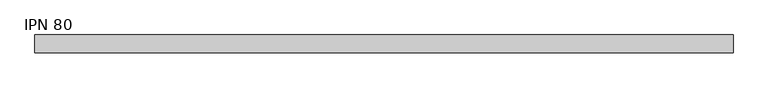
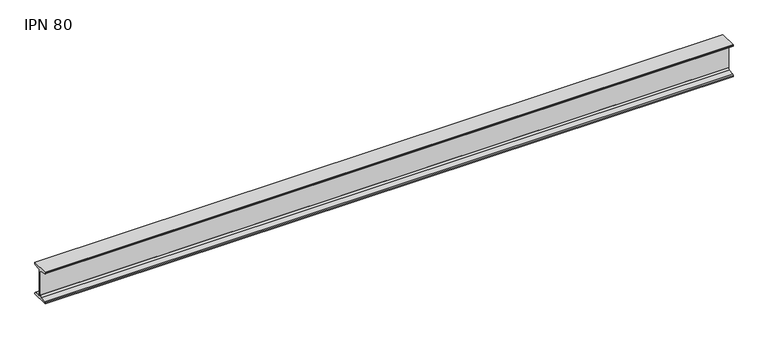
"""IFC4 building model written with IfcOpenShell, lengths in millimetres: beam geometry, IPN - Secciones en I con alas cónicas : IPN 80."""

import ifcopenshell
import ifcopenshell.guid

model = None  # the IFC model being written
_history = None  # IfcOwnerHistory: only IFC2X3 demands one
_inside = {}  # id of a spatial element -> (the spatial element, [elements in it])
_under = {}  # id of a project, library or spatial element -> (it, [spatial elements below it])
_declared = {}  # id of a project -> (the project, [libraries it declares])
_typed = {}  # id of a type object -> (the type object, [elements of that type])
_made_of = {}  # id of a material, layer set ... -> (it, [elements and type objects made of it])


def new_model(schema):
    """Start an empty IFC model of exactly this schema.

    Asked for "IFC4X3", IfcOpenShell would pick the latest addendum, in which some entities
    have other attributes; the version numbers below select the first issue.
    IFC2X3 requires an IfcOwnerHistory on every rooted entity: one is made here for all.
    """
    global model, _history
    if schema == "IFC4X3":
        model = ifcopenshell.file(schema_version=(4, 3, 0, 0))
    else:
        model = ifcopenshell.file(schema=schema)
    _inside.clear()
    _under.clear()
    _declared.clear()
    _typed.clear()
    _made_of.clear()
    _history = None
    if model.schema == "IFC2X3":
        org = make("IfcOrganization", Name="unknown")
        user = make(
            "IfcPersonAndOrganization",
            ThePerson=make("IfcPerson", FamilyName="unknown"),
            TheOrganization=org,
        )
        app = make(
            "IfcApplication",
            ApplicationDeveloper=org,
            Version="unknown",
            ApplicationFullName="unknown",
            ApplicationIdentifier="unknown",
        )
        _history = make(
            "IfcOwnerHistory",
            OwningUser=user,
            OwningApplication=app,
            ChangeAction="ADDED",
            CreationDate=0,
        )
    return model


def make(cls, **values):
    """One entity of the class cls with the attributes given. An attribute that is None is left unset."""
    return model.create_entity(
        cls, **{name: value for name, value in values.items() if value is not None}
    )


def rooted(cls, **values):
    """An entity with a GlobalId (a new one), such as an element, a storey or a relation."""
    return make(cls, GlobalId=ifcopenshell.guid.new(), OwnerHistory=_history, **values)


def si_unit(unit_type, name, prefix=None):
    """IfcSIUnit, for example si_unit("LENGTHUNIT", "METRE", prefix="MILLI")."""
    return make("IfcSIUnit", UnitType=unit_type, Prefix=prefix, Name=name)


def assignment(units):
    """IfcUnitAssignment: the units of a project."""
    return None if units is None else make("IfcUnitAssignment", Units=units)


def point(xyz):
    """IfcCartesianPoint."""
    return None if xyz is None else make("IfcCartesianPoint", Coordinates=xyz)


def direction(xyz):
    """IfcDirection."""
    return None if xyz is None else make("IfcDirection", DirectionRatios=xyz)


def frame(location, z_axis=None, x_axis=None):
    """IfcAxis2Placement3D, a coordinate frame: its origin and axes. An axis left out is left unset."""
    return make(
        "IfcAxis2Placement3D",
        Location=point(location),
        Axis=direction(z_axis),
        RefDirection=direction(x_axis),
    )


def frame_2d(location, x_axis=None):
    """IfcAxis2Placement2D, a coordinate frame in the plane: its origin and x axis."""
    return make(
        "IfcAxis2Placement2D", Location=point(location), RefDirection=direction(x_axis)
    )


def origin():
    """The frame at (0, 0, 0) with its axes left unset."""
    return frame((0.0, 0.0, 0.0))


def place(relative_to, where):
    """IfcLocalPlacement: puts the frame where relative to a parent placement (None: the world)."""
    return make(
        "IfcLocalPlacement", PlacementRelTo=relative_to, RelativePlacement=where
    )


def context(
    kind, dimensions, precision=None, world=None, true_north=None, identifier=None
):
    """IfcGeometricRepresentationContext, for example the 3D "Model" context."""
    return make(
        "IfcGeometricRepresentationContext",
        ContextIdentifier=identifier,
        ContextType=kind,
        CoordinateSpaceDimension=dimensions,
        Precision=precision,
        WorldCoordinateSystem=world,
        TrueNorth=true_north,
    )


def project(units=None, contexts=None):
    """IfcProject with its units and contexts."""
    return rooted(
        "IfcProject",
        Name="project",
        RepresentationContexts=contexts,
        UnitsInContext=assignment(units),
    )


def spatial(cls, under=None, at=None, **own):
    """A site, building, storey or space (cls), placed at a placement, below another one or the project."""
    s = rooted(cls, ObjectPlacement=at, **own)
    if under is not None:
        _under.setdefault(under.id(), (under, []))[1].append(s)
    return s


def polyline(points):
    """IfcPolyline through the points."""
    return make("IfcPolyline", Points=[point(p) for p in points])


def circle_curve(where, radius):
    """IfcCircle in the frame where."""
    return make("IfcCircle", Position=where, Radius=radius)


def trimmed(basis, trim1, trim2, sense, master):
    """IfcTrimmedCurve: the piece of a basis curve between two trims."""
    return make(
        "IfcTrimmedCurve",
        BasisCurve=basis,
        Trim1=trim1,
        Trim2=trim2,
        SenseAgreement=sense,
        MasterRepresentation=master,
    )


def segment(curve, same_sense, transition):
    """IfcCompositeCurveSegment."""
    return make(
        "IfcCompositeCurveSegment",
        Transition=transition,
        SameSense=same_sense,
        ParentCurve=curve,
    )


def composite_curve(segments, self_intersect=None):
    """IfcCompositeCurve: segments joined end to end."""
    return make("IfcCompositeCurve", Segments=segments, SelfIntersect=self_intersect)


def outline(outer, holes=None, kind="AREA"):
    """IfcArbitraryClosedProfileDef: a profile drawn as a closed curve; with holes, ...WithVoids."""
    if holes is None:
        return make("IfcArbitraryClosedProfileDef", ProfileType=kind, OuterCurve=outer)
    return make(
        "IfcArbitraryProfileDefWithVoids",
        ProfileType=kind,
        OuterCurve=outer,
        InnerCurves=holes,
    )


def extrude(swept, where, along, depth):
    """IfcExtrudedAreaSolid: the profile swept, set in the frame where, extruded along a direction by depth."""
    return make(
        "IfcExtrudedAreaSolid",
        SweptArea=swept,
        Position=where,
        ExtrudedDirection=direction(along),
        Depth=depth,
    )


def shape(context_of_items, identifier, shape_type, items):
    """IfcShapeRepresentation: the items that make up one representation, for example the "Body"."""
    return make(
        "IfcShapeRepresentation",
        ContextOfItems=context_of_items,
        RepresentationIdentifier=identifier,
        RepresentationType=shape_type,
        Items=items,
    )


def source(mapping_origin, context_of_items, identifier, shape_type, items):
    """IfcRepresentationMap: a shape defined once, which mapped items show again and again."""
    return make(
        "IfcRepresentationMap",
        MappingOrigin=mapping_origin,
        MappedRepresentation=shape(context_of_items, identifier, shape_type, items),
    )


def transform(
    local_origin,
    x_axis=None,
    y_axis=None,
    z_axis=None,
    scale=None,
    scale2=None,
    scale3=None,
    uniform=True,
):
    """IfcCartesianTransformationOperator3D, or its non-uniform kind. x_axis, y_axis, z_axis: its Axis1, 2, 3."""
    if uniform:
        return make(
            "IfcCartesianTransformationOperator3D",
            Axis1=direction(x_axis),
            Axis2=direction(y_axis),
            LocalOrigin=point(local_origin),
            Scale=scale,
            Axis3=direction(z_axis),
        )
    return make(
        "IfcCartesianTransformationOperator3DnonUniform",
        Axis1=direction(x_axis),
        Axis2=direction(y_axis),
        LocalOrigin=point(local_origin),
        Scale=scale,
        Axis3=direction(z_axis),
        Scale2=scale2,
        Scale3=scale3,
    )


def mapped(mapping_source, mapping_target):
    """IfcMappedItem: shows the shape of a source again, moved by a transform."""
    return make(
        "IfcMappedItem", MappingSource=mapping_source, MappingTarget=mapping_target
    )


def made_of(thing, what):
    """Note that an element or type object is made of a material, layer set ...; save() writes the relation."""
    if what is not None:
        _made_of.setdefault(what.id(), (what, []))[1].append(thing)
    return thing


def element(
    cls,
    number,
    at=None,
    inside=None,
    cuts=None,
    type_object=None,
    material=None,
    context=None,
    identifier="Body",
    shape_type=None,
    held_by="IfcProductDefinitionShape",
    body=None,
    shapes=None,
    **own,
):
    """One element of the class cls, such as IfcWall. Its Tag is "e" and its number.

    at: its placement. inside: the storey or other place that contains it. cuts: it is an
    opening in that element (IfcRelVoidsElement). A single representation is given by context,
    identifier, shape_type and body (its items); several are given by shapes. held_by: the class
    of the entity that holds the representations. save() writes the other relations.
    """
    e = rooted(cls, Tag="e%d" % number, ObjectPlacement=at, **own)
    if body is not None:
        shapes = [shape(context, identifier, shape_type, body)]
    if shapes is not None:
        e.Representation = make(held_by, Representations=shapes)
    if inside is not None:
        _inside.setdefault(inside.id(), (inside, []))[1].append(e)
    if cuts is not None:
        rooted(
            "IfcRelVoidsElement", RelatingBuildingElement=cuts, RelatedOpeningElement=e
        )
    if type_object is not None:
        _typed.setdefault(type_object.id(), (type_object, []))[1].append(e)
    return made_of(e, material)


def aggregate(whole, parts):
    """IfcRelAggregates: a whole, such as a stair, and the parts it consists of."""
    return rooted("IfcRelAggregates", RelatingObject=whole, RelatedObjects=parts)


def save(model, path):
    """Write the relations noted so far, then the file.

    IfcRelAggregates (storeys below a building ...), IfcRelContainedInSpatialStructure (elements
    in a storey), IfcRelDefinesByType, IfcRelAssociatesMaterial and IfcRelDeclares: one each for
    every whole, place, type object, material and project.
    """
    for whole, parts in _under.values():
        aggregate(whole, parts)
    for where, things in _inside.values():
        rooted(
            "IfcRelContainedInSpatialStructure",
            RelatedElements=things,
            RelatingStructure=where,
        )
    for kind, things in _typed.values():
        rooted("IfcRelDefinesByType", RelatedObjects=things, RelatingType=kind)
    for what, things in _made_of.values():
        rooted("IfcRelAssociatesMaterial", RelatedObjects=things, RelatingMaterial=what)
    for by, libraries in _declared.values():
        rooted("IfcRelDeclares", RelatingContext=by, RelatedDefinitions=libraries)
    model.write(path)


def ipn_80_7466b6c9(model_context):
    return source(origin(), model_context, "Body", "SweptSolid", [
        extrude(outline(composite_curve([segment(polyline([(21.0, 40.0), (21.0, 37.5704306)]), True, "CONTINUOUS"), segment(trimmed(circle_curve(frame_2d((18.7, 37.5704306)), 2.3), [point((21.0, 37.5704306))], [point((19.01889, 35.2926446))], False, "CARTESIAN"), True, "CONTINUOUS"), segment(polyline([(19.01889, 35.2926446), (5.3092734, 33.3732983)]), True, "CONTINUOUS"), segment(trimmed(circle_curve(frame_2d((5.85, 29.5109655)), 3.9), [point((5.3092734, 33.3732983))], [point((1.95, 29.5109655))], True, "CARTESIAN"), True, "CONTINUOUS"), segment(polyline([(1.95, 29.5109655), (1.95, -29.5109655)]), True, "CONTINUOUS"), segment(trimmed(circle_curve(frame_2d((5.85, -29.5109655)), 3.9), [point((1.95, -29.5109655))], [point((5.3092734, -33.3732983))], True, "CARTESIAN"), True, "CONTINUOUS"), segment(polyline([(5.3092734, -33.3732983), (19.01889, -35.2926446)]), True, "CONTINUOUS"), segment(trimmed(circle_curve(frame_2d((18.7, -37.5704306)), 2.3), [point((19.01889, -35.2926446))], [point((21.0, -37.5704306))], False, "CARTESIAN"), True, "CONTINUOUS"), segment(polyline([(21.0, -37.5704306), (21.0, -40.0), (-21.0, -40.0), (-21.0, -37.5704306)]), True, "CONTINUOUS"), segment(trimmed(circle_curve(frame_2d((-18.7, -37.5704306)), 2.3), [point((-21.0, -37.5704306))], [point((-19.01889, -35.2926446))], False, "CARTESIAN"), True, "CONTINUOUS"), segment(polyline([(-19.01889, -35.2926446), (-5.3092734, -33.3732983)]), True, "CONTINUOUS"), segment(trimmed(circle_curve(frame_2d((-5.85, -29.5109655)), 3.9), [point((-5.3092734, -33.3732983))], [point((-1.95, -29.5109655))], True, "CARTESIAN"), True, "CONTINUOUS"), segment(polyline([(-1.95, -29.5109655), (-1.95, 29.5109655)]), True, "CONTINUOUS"), segment(trimmed(circle_curve(frame_2d((-5.85, 29.5109655)), 3.9), [point((-1.95, 29.5109655))], [point((-5.3092734, 33.3732983))], True, "CARTESIAN"), True, "CONTINUOUS"), segment(polyline([(-5.3092734, 33.3732983), (-19.01889, 35.2926446)]), True, "CONTINUOUS"), segment(trimmed(circle_curve(frame_2d((-18.7, 37.5704306)), 2.3), [point((-19.01889, 35.2926446))], [point((-21.0, 37.5704306))], False, "CARTESIAN"), True, "CONTINUOUS"), segment(polyline([(-21.0, 37.5704306), (-21.0, 40.0), (21.0, 40.0)]), True, "CONTINUOUS")], self_intersect=False)), frame((-819.0, 0.0, 0.0), z_axis=(1.0, 0.0, 0.0), x_axis=(0.0, 1.0, 0.0)), (0.0, 0.0, 1.0), 1649.0),
    ])


if __name__ == "__main__":
    model = new_model("IFC4")
    model_context = context("Model", 3, world=origin())
    ifc_project = project(units=[si_unit("LENGTHUNIT", "METRE", prefix="MILLI")], contexts=[model_context])
    site = spatial("IfcSite", under=ifc_project)
    building = spatial("IfcBuilding", under=site)
    placement = place(None, origin())
    ipn_80_shape = ipn_80_7466b6c9(model_context)
    element("IfcBeam", 1, ObjectType="IPN - Secciones en I con alas cónicas : IPN 80", at=placement, inside=building, context=model_context, shape_type="MappedRepresentation", body=[
        mapped(ipn_80_shape, transform((0.0, 0.0, 0.0), x_axis=(1.0, 0.0, 0.0), y_axis=(0.0, 1.0, 0.0), z_axis=(0.0, 0.0, 1.0))),
    ])
    save(model, "model.ifc")
